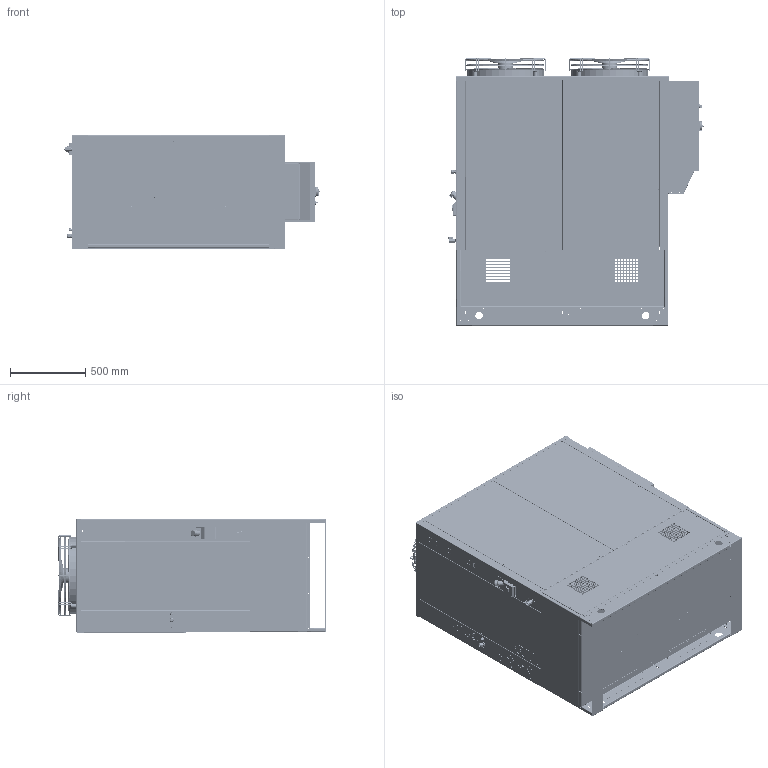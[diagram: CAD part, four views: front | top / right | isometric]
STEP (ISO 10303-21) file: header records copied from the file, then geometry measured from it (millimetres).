
FILE_DESCRIPTION (( 'STEP AP203' ), '1' );
FILE_NAME ('F3H-2C_UL_REV_00.STEP', '2026-07-22T13:52:53', ( '' ), ( '' ), 'SwSTEP 2.0', 'SolidWorks 2023', '' );
FILE_SCHEMA (( 'CONFIG_CONTROL_DESIGN' ));
Length unit declared in the file: millimetre
Products named in the file (91): COPIA_SE-RR-00025_000; COPIA_CR-2D-00004_001; COPIA_PG 9_Cable-Gland-1.209.0900.14-Nelco; COPIA_VR-3F-00006_001B; COPIA_MOUSSE_ADESIVA_20X10_L1270; COPIA_CASSA UL 600X400X200; COPIA_IN-VI-00001; COPIA_PG-16; COPIA_B72-0529_DX; COPIA_T06-0208_DX; COPIA_PRT0002_11_AF0; COPIA_350-450-031; COPIA_VR-2F-00005_003; COPIA_VR-3F-00009_000; COPIA_CO-MI-00018 X0-CD0242-00_DX_CO-MI-00018_PER_40-MI-E0010; COPIA_Rosetta piana M6; COPIA_VR-2D-00034_001; COPIA_T04-0187_DX; COPIA_VR-3F-00003_002; COPIA_S82b-1315_DX; COPIA_6D-400-S-012_2_AF0; COPIA_VE-W5-00007_02; COPIA_T09-0001_DX; COPIA_CR-3F-00006_001; COPIA_CR-3F-00006_001A; COPIA_D01-CD0240P_DX; COPIA_VR-3F-00007_000; COPIA_T03-0044_DX; COPIA_H48-0025_DX; COPIA_VITE M6x20; COPIA_SEZIONATORE-GR_D2; COPIA_PG 9_2_Nut-PA-Grey-19-19-22-Nelco; COPIA_VR-3F-00006_001A; COPIA_VE-W5-00007_CESTELLO; COPIA_CR-3F-00005_002; COPIA_G82-0010_DX; COPIA_350-022; COPIA_VASCHETTA F3 COND DX 32_SUP; COPIA_VE-W5-00007_03; COPIA_VR-2F-00008_003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
Assembly tree (185 placements, depth 8):
  F3H-2C_UL_REV_00
    COPIA_40-MI-E0010_SENZA_BASE
      COPIA_50-3F-00001-2_50-3F-00001-SENZA_BASE
        COPIA_VR-2F-00005_003
        COPIA_VR-2F-00006_003
        COPIA_VR-2F-00007_004
        COPIA_VR-2F-00008_003
        COPIA_VR-2F-00010_000
        COPIA_VR-2F-00011_000
        COPIA_CR-3F-00008_001  x2
        COPIA_CR-3F-00009_001
        COPIA_CR-3F-00005_002
        COPIA_VR-3F-00004_002
        COPIA_CR-3F-00007_004
        COPIA_VASCHETTA F3 COND DX 32_SUP
          COPIA_CO-MI-00018 X0-CD0242-00_DX_CO-MI-00018_PER_40-MI-E0010
            COPIA_CO-MI-00018 X0-CD0242-00(2)_DX
              COPIA_Y0-CD0242_DX
                COPIA_H48-0022_DX
                COPIA_H48-0025_DX
                COPIA_S82b-1315_DX  x10
                COPIA_B72-0529_DX  x10
                COPIA_D01-CD0240P_DX  x2
                COPIA_T03-0044_DX
                COPIA_T04-0187_DX  x4
                COPIA_T06-0208_DX
                COPIA_T06-0207_DX
              COPIA_T09-0001_DX
              COPIA_T09-0002_DX
              COPIA_T09-0146_DX
            COPIA_G72-0024_DX
            COPIA_G82-0010_DX
          COPIA_PiedeCondensatoreDanfossD38  x4
          COPIA_CR-3F-00003_000
          COPIA_CR-3F-00004_002
        COPIA_VR-3F-00006_001  x2
          COPIA_VR-3F-00006_001A
          COPIA_VR-3F-00006_001B
          COPIA_VR-3F-00006_001C
        COPIA_VR-3F-00002_002  x2
        COPIA_CR-2D-00004_001  x2
        COPIA_CR-3D-00010_001
        COPIA_CR-2F-00008_000
        COPIA_FI-A4-00002_000  x2
        COPIA_CR-3F-00006_001
          COPIA_CR-3F-00006_001A
          COPIA_CR-3F-00006_001B
        COPIA_MOUSSE_ADESIVA_20X10_L658  x2
        COPIA_MOUSSE_ADESIVA_20X10_L1270  x2
      COPIA_COMPONENTI_VENTOLA_40-MI-E0010
        COPIA_AN-PI-00022  x8
        COPIA_WE-W5-00007  x2
          COPIA_350-012-C
          COPIA_6D-400-S-018-2_22_AF0
          COPIA_PRT0002_11_AF0
          COPIA_6D-400-S-012_2_AF0
          COPIA_350-450-031
          COPIA_VE-W5-00007_ELICA
          COPIA_350-022
          COPIA_VE-W5-00007_CESTELLO
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Bounding box: 1695.49 x 1778.2 x 762 mm (x, y, z)
Volume: 81756968.4 mm3; surface area: 37280003.1 mm2
Topology: 421 solids, 514 shells, 24999 faces, 65188 edges, 41105 vertices
Faces by surface type: plane 12848, cylinder 5407, bspline 4564, cone 1492, torus 631, sphere 57
Entity records: 628740 total; most frequent: CARTESIAN_POINT 261306, ORIENTED_EDGE 79068, DIRECTION 64228, EDGE_CURVE 39754, VERTEX_POINT 25134, LINE 22930, VECTOR 22930, AXIS2_PLACEMENT_3D 20649
